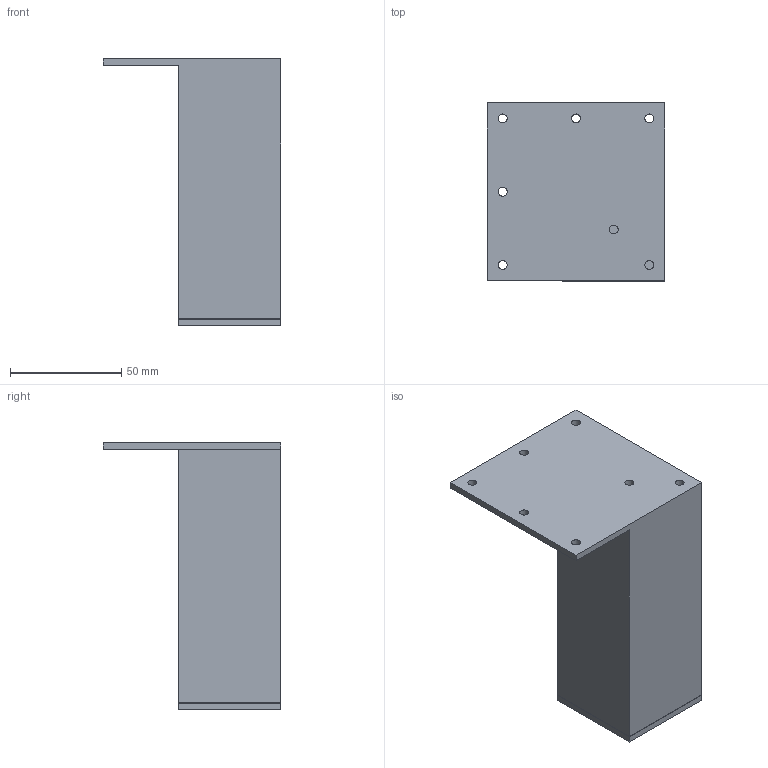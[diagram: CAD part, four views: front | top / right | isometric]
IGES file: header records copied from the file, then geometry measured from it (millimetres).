
Start section: Data from Parasolid IGES Translator 15.0.47, Copyright(c) 2006 Siemens P LM Software. All Rights Reserved.
Global section: file name: 45084.igs; native system:  By UGS Corp.; preprocessor: XPlus GENERIC/IGES 3.0; author: Noname; organization: Noname; date: 20140121.135659; units: millimetre
Bounding box: 80 x 80 x 120 mm (x, y, z)
Surface area: 59493.2 mm2 (no closed solid volume)
Topology: 0 solids, 0 shells, 32 faces, 156 edges, 142 vertices
Faces by surface type: extrusion 25, revolution 7
